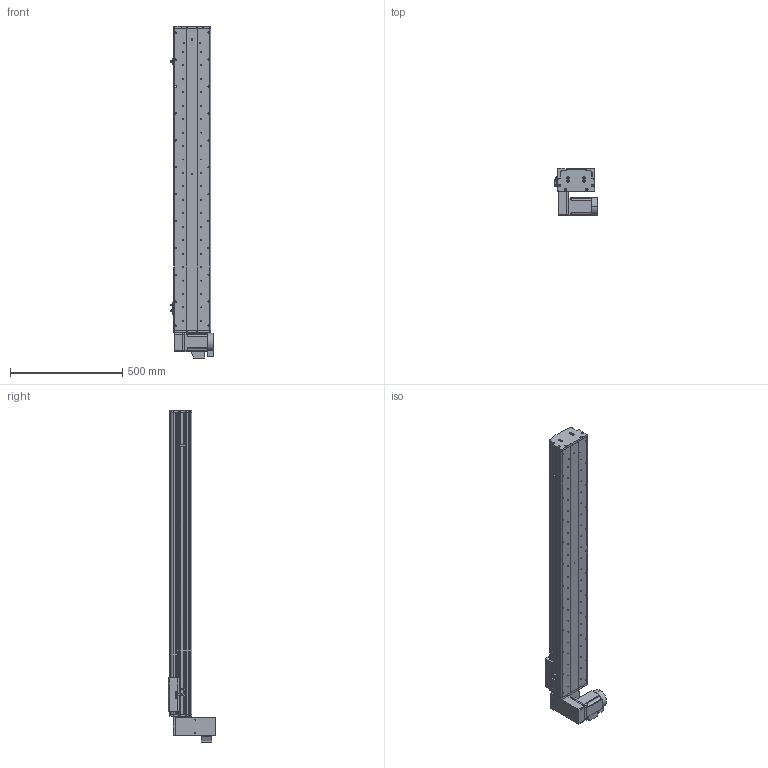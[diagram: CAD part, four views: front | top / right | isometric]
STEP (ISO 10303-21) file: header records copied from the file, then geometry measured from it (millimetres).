
FILE_DESCRIPTION (( 'STEP AP214' ), '1' );
FILE_NAME ('KSD165B-S1100-MLD-CM.STEP', '2017-10-16T07:19:48', ( '微软用户' ), ( '微软中国' ), 'SwSTEP 2.0', 'SolidWorks 2014', '' );
FILE_SCHEMA (( 'AUTOMOTIVE_DESIGN' ));
Length unit declared in the file: millimetre
Products named in the file (17): KSD165耀郪-ヶ傷啣1-肮祭湍; KSD165模组-后端板1-同步带; KSD165模组-同步带滑动座-最新版; KSD165B-S1100-MLD-CM; 130宽模组马达安装板连板上下折丝杆同步带; 130宽模组保护罩上下左右折-同步带; HTPA26S5M250-A-H8 750W萇儂蚚; HTPA26S5M250-A-H8 400W萇儂蚚 ; 165宽马达安装板同步带左-改; KSD165模组-同步带防尘盖1-1100行程; KSD165模组同步带底板-1100行程; 拸秶雄ん750W侜督萇儂; U倰嫖萇假蚾璃; U倰嫖萇EEㄜSX672; 覜茼え68遵圉猾敕; KSD165模组-同步带-防撞垫2; KSD165模组同步带-防撞垫1
Assembly tree (20 placements, depth 2):
  KSD165B-S1100-MLD-CM
    KSD165模组-同步带滑动座-最新版
    KSD165模组-后端板1-同步带
    KSD165耀郪-ヶ傷啣1-肮祭湍
    KSD165模组同步带-防撞垫1
    KSD165模组-同步带-防撞垫2
    覜茼え68遵圉猾敕
    U倰嫖萇EEㄜSX672  x3
    U倰嫖萇假蚾璃  x3
    拸秶雄ん750W侜督萇儂
    KSD165模组同步带底板-1100行程
    KSD165模组-同步带防尘盖1-1100行程
    165宽马达安装板同步带左-改
    HTPA26S5M250-A-H8 400W萇儂蚚 
    HTPA26S5M250-A-H8 750W萇儂蚚
    130宽模组保护罩上下左右折-同步带
    130宽模组马达安装板连板上下折丝杆同步带
Bounding box: 191.2 x 210 x 1481 mm (x, y, z)
Volume: 8366472.4 mm3; surface area: 1948565.1 mm2
Topology: 21 solids, 22 shells, 1993 faces, 5628 edges, 3676 vertices
Faces by surface type: cylinder 1289, plane 592, cone 112
Entity records: 64952 total; most frequent: CARTESIAN_POINT 13326, DIRECTION 10652, ORIENTED_EDGE 9916, EDGE_CURVE 4958, AXIS2_PLACEMENT_3D 4184, VERTEX_POINT 3268, CIRCLE 2388, VECTOR 2284
